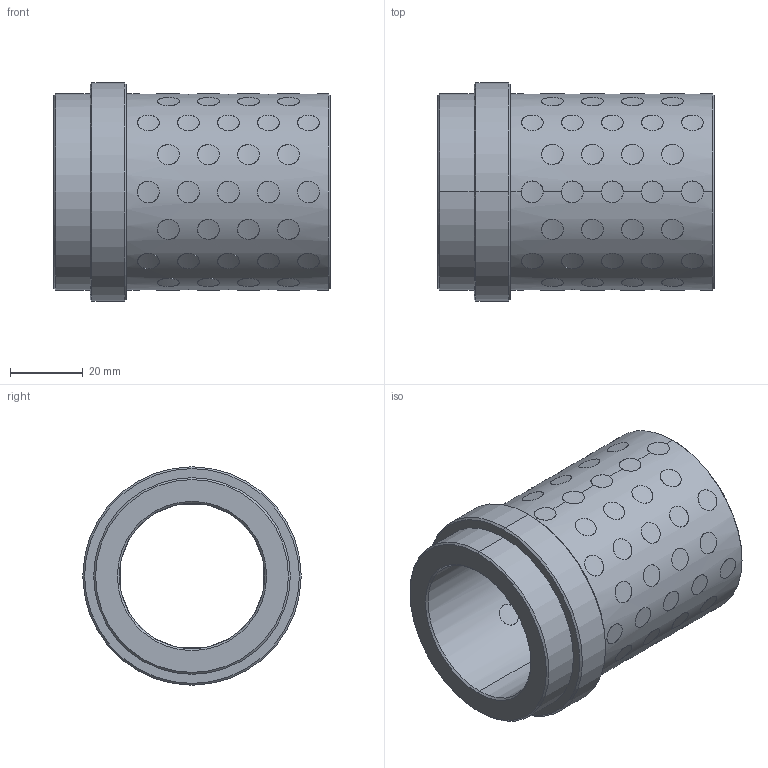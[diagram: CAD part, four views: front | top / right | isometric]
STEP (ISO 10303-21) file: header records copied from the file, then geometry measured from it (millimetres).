
FILE_DESCRIPTION((''),'2;1');
FILE_NAME('G31240066','2017-12-31T',('MANU'),(''),'PRO/ENGINEER BY PARAMETRIC TECHNOLOGY CORPORATION, 2012130','PRO/ENGINEER BY PARAMETRIC TECHNOLOGY CORPORATION, 2012130','');
FILE_SCHEMA(('CONFIG_CONTROL_DESIGN'));
Length unit declared in the file: millimetre
Products named in the file (1): G31240066
Bounding box: 76 x 60 x 60 mm (x, y, z)
Volume: 83566.3 mm3; surface area: 44421.8 mm2
Topology: 73 solids, 73 shells, 456 faces, 972 edges, 644 vertices
Faces by surface type: cylinder 440, cone 12, plane 4
Entity records: 22958 total; most frequent: CARTESIAN_POINT 14048, ORIENTED_EDGE 1944, DIRECTION 1296, EDGE_CURVE 972, VERTEX_POINT 644, B_SPLINE_CURVE_WITH_KNOTS 616, EDGE_LOOP 584, AXIS2_PLACEMENT_3D 484
